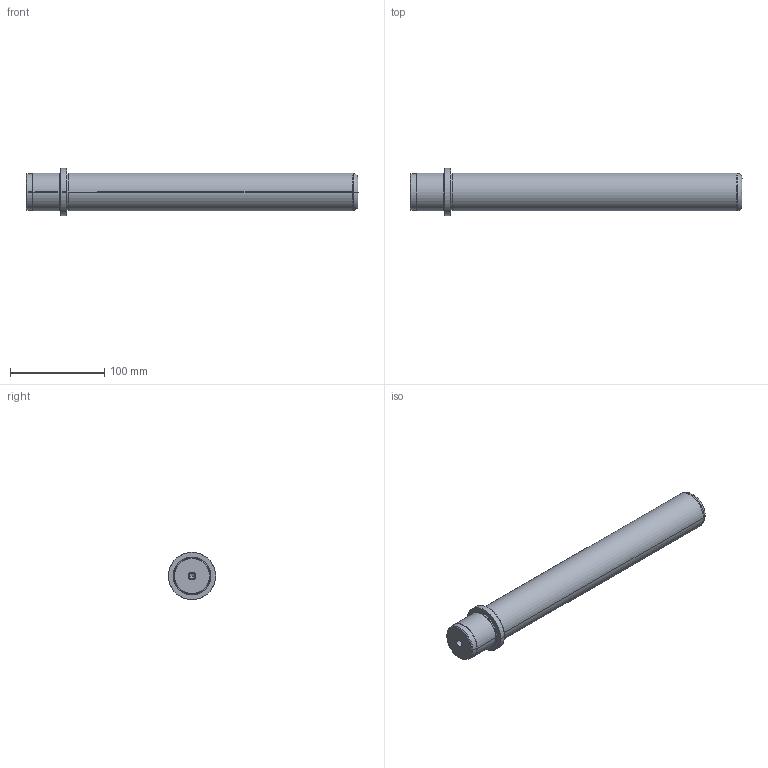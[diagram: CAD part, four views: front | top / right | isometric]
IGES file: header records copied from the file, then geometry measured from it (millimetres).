
Start section: SolidWorks IGES FILE using analytic representation for surfaces
Global section: file name: D:\zzzzz\Delta\D06\40\D06 - 40x315x37.IGS; native system: SolidWorks 2004 by SolidWorks Corporation; preprocessor: Version 5.3; author: Hkn; date: 080327.151211; units: millimetre
Bounding box: 352 x 50 x 50 mm (x, y, z)
Surface area: 49374.4 mm2 (no closed solid volume)
Topology: 0 solids, 0 shells, 39 faces, 1080 edges, 1076 vertices
Faces by surface type: revolution 28, bspline 11
